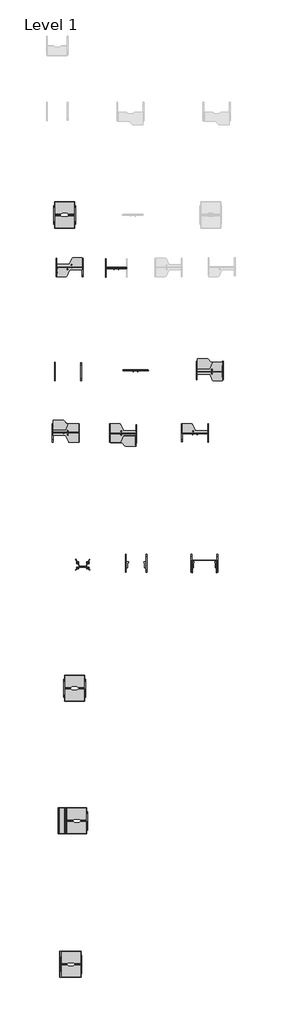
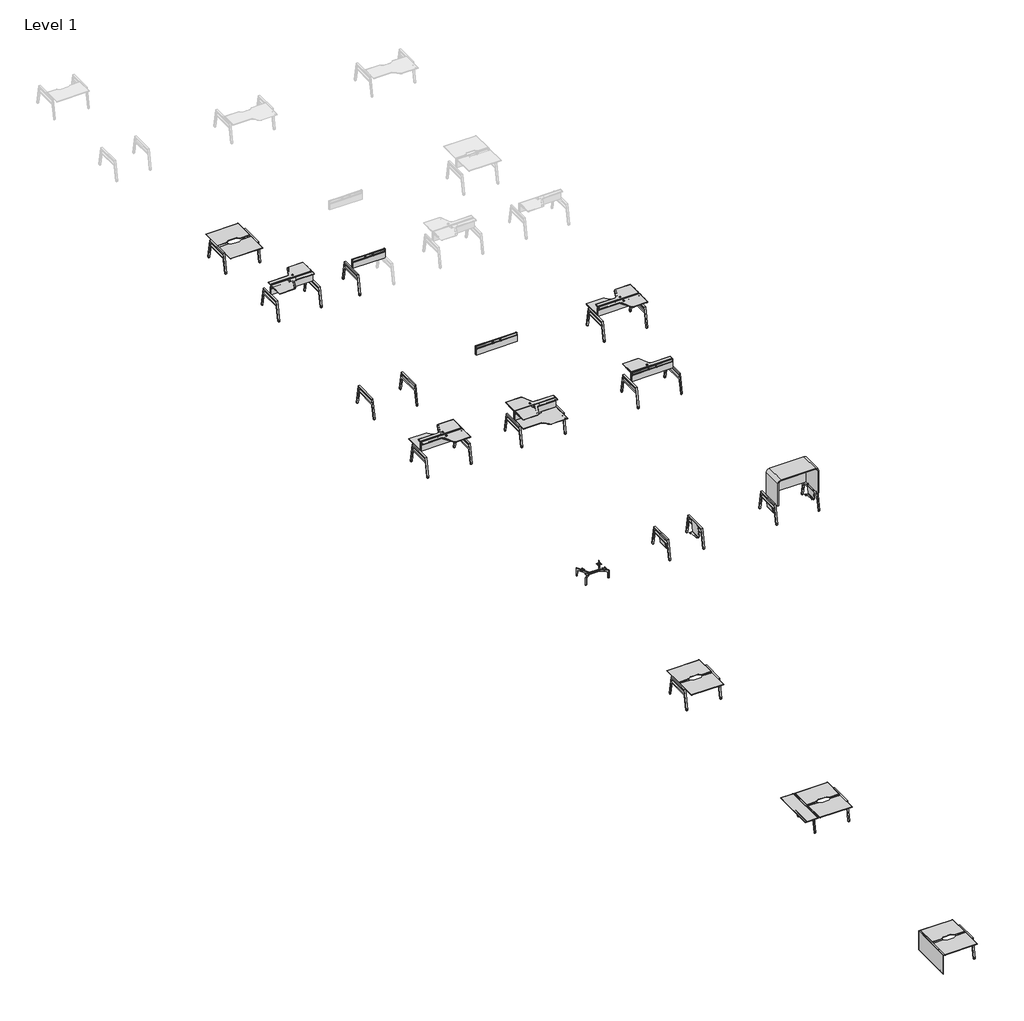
# One storey, part 1 of 6: 115 furniture elements.
"""IFC4 building model written with IfcOpenShell, lengths in millimetres."""

from ifc_helpers import new_model, si_unit, origin, place, context, project, spatial, transform, mapped, element, save
from components import furniture_6679164a, furniture_07929c5c, furniture_6d1c9745, furniture_5ffd5a01, furniture_36w_9987a5bf, furniture_48w_f59d3814, furniture_60w_907c8dee, furniture_60w_9ff7b1d1, furniture_60w_9ca0c22e, furniture_60w_left_193ce283, furniture_60w_right_423f7bdd, furniture_60w_right_6b6f8c7d, furniture_60w_right_09d68f9b, bracket_5da60547, bracket_8338e0bc, double_mini_hook_front_8bcf4326, full_half_8ba35e3a, full_half_125b1efd, seat_e1c811f7

model = new_model("IFC4")

# Units and contexts
model_context = context("Model", 3, world=origin())
ifc_project = project(units=[si_unit("LENGTHUNIT", "METRE", prefix="MILLI")], contexts=[model_context])

# Site, building, storey
site = spatial("IfcSite", under=ifc_project)
building = spatial("IfcBuilding", under=site)
storey = spatial("IfcBuildingStorey", under=building, Name="Level 1", Elevation=0.0)

# Furniture
placement = place(None, origin())
furniture_shape = furniture_6679164a(model_context)
element("IfcFurniture", 1, ObjectType="Steelcase Turnstone - Bivi - Table - Table Top : 30D x 48W", at=placement, inside=storey, context=model_context, shape_type="MappedRepresentation", body=[
    mapped(furniture_shape, transform((694235.6460271, -10095.5014465, 0.0), x_axis=(-1.0, 0.0, 0.0), y_axis=(0.0, -1.0, 0.0), z_axis=(0.0, 0.0, 1.0))),
])
element("IfcFurniture", 2, ObjectType="Steelcase Turnstone - Bivi - Table - Table Top : 30D x 48W", at=placement, inside=storey, context=model_context, shape_type="MappedRepresentation", body=[
    mapped(furniture_shape, transform((693349.3182823, -39227.9641494, 0.0), x_axis=(1.0, 0.0, 0.0), y_axis=(0.0, 1.0, 0.0), z_axis=(0.0, 0.0, 1.0))),
])
element("IfcFurniture", 3, ObjectType="Steelcase Turnstone - Bivi - Table - Table Top : 30D x 48W", at=placement, inside=storey, context=model_context, shape_type="MappedRepresentation", body=[
    mapped(furniture_shape, transform((693479.4932823, -46956.7885998, 0.0), x_axis=(1.0, 0.0, 0.0), y_axis=(0.0, 1.0, 0.0), z_axis=(0.0, 0.0, 1.0))),
])
element("IfcFurniture", 4, ObjectType="Steelcase Turnstone - Bivi - Table - Table Top : 30D x 48W", at=placement, inside=storey, context=model_context, shape_type="MappedRepresentation", body=[
    mapped(furniture_shape, transform((694951.0168823, -45433.2505093, 0.0), x_axis=(-1.0, 0.0, 0.0), y_axis=(0.0, -1.0, 0.0), z_axis=(0.0, 0.0, 1.0))),
])
element("IfcFurniture", 5, ObjectType="Steelcase Turnstone - Bivi - Table - Table Top : 30D x 48W", at=placement, inside=storey, context=model_context, shape_type="MappedRepresentation", body=[
    mapped(furniture_shape, transform((694607.8969681, -53803.6074746, 0.0), x_axis=(-1.0, 0.0, 0.0), y_axis=(0.0, -1.0, 0.0), z_axis=(0.0, 0.0, 1.0))),
])
furniture_2_shape = furniture_07929c5c(model_context)
element("IfcFurniture", 6, ObjectType="Steelcase Turnstone - Bivi - Table - Leg : 2D x 42 1/4W 28 1/2H", at=placement, inside=storey, context=model_context, shape_type="MappedRepresentation", body=[
    mapped(furniture_2_shape, transform((694132.3696271, -11401.7598524, 0.0), x_axis=(-1.0, 0.0, 0.0), y_axis=(0.0, -1.0, 0.0), z_axis=(0.0, 0.0, 1.0))),
])
element("IfcFurniture", 7, ObjectType="Steelcase Turnstone - Bivi - Table - Leg : 2D x 42 1/4W 28 1/2H", at=placement, inside=storey, context=model_context, shape_type="MappedRepresentation", body=[
    mapped(furniture_2_shape, transform((694489.8492271, -20549.8252631, 0.0), x_axis=(-1.0, 0.0, 0.0), y_axis=(0.0, -1.0, 0.0), z_axis=(0.0, 0.0, 1.0))),
])
element("IfcFurniture", 8, ObjectType="Steelcase Turnstone - Bivi - Table - Leg : 2D x 42 1/4W 28 1/2H", at=placement, inside=storey, context=model_context, shape_type="MappedRepresentation", body=[
    mapped(furniture_2_shape, transform((694364.1327901, -24122.7647155, 0.0), x_axis=(-1.0, 0.0, 0.0), y_axis=(0.0, -1.0, 0.0), z_axis=(0.0, 0.0, 1.0))),
])
element("IfcFurniture", 9, ObjectType="Steelcase Turnstone - Bivi - Table - Leg : 2D x 42 1/4W 28 1/2H", at=placement, inside=storey, context=model_context, shape_type="MappedRepresentation", body=[
    mapped(furniture_2_shape, transform((697716.9327901, -24167.1959645, 0.0), x_axis=(-1.0, 0.0, 0.0), y_axis=(0.0, -1.0, 0.0), z_axis=(0.0, 0.0, 1.0))),
])
element("IfcFurniture", 10, ObjectType="Steelcase Turnstone - Bivi - Table - Leg : 2D x 42 1/4W 28 1/2H", at=placement, inside=storey, context=model_context, shape_type="MappedRepresentation", body=[
    mapped(furniture_2_shape, transform((702775.3099474, -20466.9502315, 0.0), x_axis=(-1.0, 0.0, 0.0), y_axis=(0.0, -1.0, 0.0), z_axis=(0.0, 0.0, 1.0))),
])
element("IfcFurniture", 11, ObjectType="Steelcase Turnstone - Bivi - Table - Leg : 2D x 42 1/4W 28 1/2H", at=placement, inside=storey, context=model_context, shape_type="MappedRepresentation", body=[
    mapped(furniture_2_shape, transform((694572.2208352, -14467.3937544, 0.0), x_axis=(-1.0, 0.0, 0.0), y_axis=(0.0, -1.0, 0.0), z_axis=(0.0, 0.0, 1.0))),
])
element("IfcFurniture", 12, ObjectType="Steelcase Turnstone - Bivi - Table - Leg : 2D x 42 1/4W 28 1/2H", at=placement, inside=storey, context=model_context, shape_type="MappedRepresentation", body=[
    mapped(furniture_2_shape, transform((701909.2965662, -24109.0640818, 0.0), x_axis=(-1.0, 0.0, 0.0), y_axis=(0.0, -1.0, 0.0), z_axis=(0.0, 0.0, 1.0))),
])
element("IfcFurniture", 13, ObjectType="Steelcase Turnstone - Bivi - Table - Leg : 2D x 42 1/4W 28 1/2H", at=placement, inside=storey, context=model_context, shape_type="MappedRepresentation", body=[
    mapped(furniture_2_shape, transform((698314.2751728, -31711.4828317, 0.0), x_axis=(-1.0, 0.0, 0.0), y_axis=(0.0, -1.0, 0.0), z_axis=(0.0, 0.0, 1.0))),
])
element("IfcFurniture", 14, ObjectType="Steelcase Turnstone - Bivi - Table - Leg : 2D x 42 1/4W 28 1/2H", at=placement, inside=storey, context=model_context, shape_type="MappedRepresentation", body=[
    mapped(furniture_2_shape, transform((694720.7404823, -39002.8320536, 0.0), x_axis=(-1.0, 0.0, 0.0), y_axis=(0.0, -1.0, 0.0), z_axis=(0.0, 0.0, 1.0))),
])
element("IfcFurniture", 15, ObjectType="Steelcase Turnstone - Bivi - Table - Leg : 2D x 42 1/4W 28 1/2H", at=placement, inside=storey, context=model_context, shape_type="MappedRepresentation", body=[
    mapped(furniture_2_shape, transform((694847.7404823, -46731.656504, 0.0), x_axis=(-1.0, 0.0, 0.0), y_axis=(0.0, -1.0, 0.0), z_axis=(0.0, 0.0, 1.0))),
])
element("IfcFurniture", 16, ObjectType="Steelcase Turnstone - Bivi - Table - Leg : 2D x 42 1/4W 28 1/2H", at=placement, inside=storey, context=model_context, shape_type="MappedRepresentation", body=[
    mapped(furniture_2_shape, transform((694504.6205681, -55102.0134693, 0.0), x_axis=(-1.0, 0.0, 0.0), y_axis=(0.0, -1.0, 0.0), z_axis=(0.0, 0.0, 1.0))),
])
element("IfcFurniture", 17, ObjectType="Steelcase Turnstone - Bivi - Table - Leg : 2D x 42 1/4W 28 1/2H", at=placement, inside=storey, context=model_context, shape_type="MappedRepresentation", body=[
    mapped(furniture_2_shape, transform((702448.1251728, -31711.4828317, 0.0), x_axis=(-1.0, 0.0, 0.0), y_axis=(0.0, -1.0, 0.0), z_axis=(0.0, 0.0, 1.0))),
])
furniture_3_shape = furniture_6d1c9745(model_context)
element("IfcFurniture", 18, ObjectType="Steelcase Turnstone - Bivi - Table - Table Top : 30D x 48W", at=placement, inside=storey, context=model_context, shape_type="MappedRepresentation", body=[
    mapped(furniture_3_shape, transform((694235.6460271, -11634.7443593, 0.0), x_axis=(-1.0, 0.0, 0.0), y_axis=(0.0, -1.0, 0.0), z_axis=(0.0, 0.0, 1.0))),
])
element("IfcFurniture", 19, ObjectType="Steelcase Turnstone - Bivi - Table - Table Top : 30D x 48W", at=placement, inside=storey, context=model_context, shape_type="MappedRepresentation", body=[
    mapped(furniture_3_shape, transform((693349.3182823, -37704.426059, 0.0), x_axis=(1.0, 0.0, 0.0), y_axis=(0.0, 1.0, 0.0), z_axis=(0.0, 0.0, 1.0))),
])
element("IfcFurniture", 20, ObjectType="Steelcase Turnstone - Bivi - Table - Table Top : 30D x 48W", at=placement, inside=storey, context=model_context, shape_type="MappedRepresentation", body=[
    mapped(furniture_3_shape, transform((694607.8969681, -55327.1455651, 0.0), x_axis=(-1.0, 0.0, 0.0), y_axis=(0.0, -1.0, 0.0), z_axis=(0.0, 0.0, 1.0))),
])
furniture_4_shape = furniture_5ffd5a01(model_context)
element("IfcFurniture", 21, ObjectType="Steelcase Turnstone - Bivi - Table - Leg : 2D x 42 1/4W 28 1/2H", at=placement, inside=storey, context=model_context, shape_type="MappedRepresentation", body=[
    mapped(furniture_4_shape, transform((692865.7224271, -11401.7598524, 0.0), x_axis=(1.0, 0.0, 0.0), y_axis=(0.0, 1.0, 0.0), z_axis=(0.0, 0.0, 1.0))),
])
element("IfcFurniture", 22, ObjectType="Steelcase Turnstone - Bivi - Table - Leg : 2D x 42 1/4W 28 1/2H", at=placement, inside=storey, context=model_context, shape_type="MappedRepresentation", body=[
    mapped(furniture_4_shape, transform((692914.8460271, -20528.7477147, 0.0), x_axis=(1.0, 0.0, 0.0), y_axis=(0.0, 1.0, 0.0), z_axis=(0.0, 0.0, 1.0))),
])
element("IfcFurniture", 23, ObjectType="Steelcase Turnstone - Bivi - Table - Leg : 2D x 42 1/4W 28 1/2H", at=placement, inside=storey, context=model_context, shape_type="MappedRepresentation", body=[
    mapped(furniture_4_shape, transform((692777.2911447, -24106.9995272, 0.0), x_axis=(1.0, 0.0, 0.0), y_axis=(0.0, 1.0, 0.0), z_axis=(0.0, 0.0, 1.0))),
])
element("IfcFurniture", 24, ObjectType="Steelcase Turnstone - Bivi - Table - Leg : 2D x 42 1/4W 28 1/2H", at=placement, inside=storey, context=model_context, shape_type="MappedRepresentation", body=[
    mapped(furniture_4_shape, transform((696130.0911447, -24125.3026878, 0.0), x_axis=(1.0, 0.0, 0.0), y_axis=(0.0, 1.0, 0.0), z_axis=(0.0, 0.0, 1.0))),
])
element("IfcFurniture", 25, ObjectType="Steelcase Turnstone - Bivi - Table - Leg : 2D x 42 1/4W 28 1/2H", at=placement, inside=storey, context=model_context, shape_type="MappedRepresentation", body=[
    mapped(furniture_4_shape, transform((701194.3875247, -20466.9502315, 0.0), x_axis=(1.0, 0.0, 0.0), y_axis=(0.0, 1.0, 0.0), z_axis=(0.0, 0.0, 1.0))),
])
element("IfcFurniture", 26, ObjectType="Steelcase Turnstone - Bivi - Table - Leg : 2D x 42 1/4W 28 1/2H", at=placement, inside=storey, context=model_context, shape_type="MappedRepresentation", body=[
    mapped(furniture_4_shape, transform((693000.7736352, -14467.3937544, 0.0), x_axis=(1.0, 0.0, 0.0), y_axis=(0.0, 1.0, 0.0), z_axis=(0.0, 0.0, 1.0))),
])
element("IfcFurniture", 27, ObjectType="Steelcase Turnstone - Bivi - Table - Leg : 2D x 42 1/4W 28 1/2H", at=placement, inside=storey, context=model_context, shape_type="MappedRepresentation", body=[
    mapped(furniture_4_shape, transform((695887.658745, -14498.0445441, 0.0), x_axis=(1.0, 0.0, 0.0), y_axis=(0.0, 1.0, 0.0), z_axis=(0.0, 0.0, 1.0))),
])
element("IfcFurniture", 28, ObjectType="Steelcase Turnstone - Bivi - Table - Leg : 2D x 42 1/4W 28 1/2H", at=placement, inside=storey, context=model_context, shape_type="MappedRepresentation", body=[
    mapped(furniture_4_shape, transform((700321.0911447, -24103.5434885, 0.0), x_axis=(1.0, 0.0, 0.0), y_axis=(0.0, 1.0, 0.0), z_axis=(0.0, 0.0, 1.0))),
])
element("IfcFurniture", 29, ObjectType="Steelcase Turnstone - Bivi - Table - Leg : 2D x 42 1/4W 28 1/2H", at=placement, inside=storey, context=model_context, shape_type="MappedRepresentation", body=[
    mapped(furniture_4_shape, transform((697047.6279728, -31711.4828317, 0.0), x_axis=(1.0, 0.0, 0.0), y_axis=(0.0, 1.0, 0.0), z_axis=(0.0, 0.0, 1.0))),
])
element("IfcFurniture", 30, ObjectType="Steelcase Turnstone - Bivi - Table - Leg : 2D x 42 1/4W 28 1/2H", at=placement, inside=storey, context=model_context, shape_type="MappedRepresentation", body=[
    mapped(furniture_4_shape, transform((693452.5946823, -39002.8320536, 0.0), x_axis=(1.0, 0.0, 0.0), y_axis=(0.0, 1.0, 0.0), z_axis=(0.0, 0.0, 1.0))),
])
element("IfcFurniture", 31, ObjectType="Steelcase Turnstone - Bivi - Table - Leg : 2D x 42 1/4W 28 1/2H", at=placement, inside=storey, context=model_context, shape_type="MappedRepresentation", body=[
    mapped(furniture_4_shape, transform((693582.7696823, -46731.656504, 0.0), x_axis=(1.0, 0.0, 0.0), y_axis=(0.0, 1.0, 0.0), z_axis=(0.0, 0.0, 1.0))),
])
element("IfcFurniture", 32, ObjectType="Steelcase Turnstone - Bivi - Table - Leg : 2D x 42 1/4W 28 1/2H", at=placement, inside=storey, context=model_context, shape_type="MappedRepresentation", body=[
    mapped(furniture_4_shape, transform((693236.4747681, -55102.0134693, 0.0), x_axis=(1.0, 0.0, 0.0), y_axis=(0.0, 1.0, 0.0), z_axis=(0.0, 0.0, 1.0))),
])
element("IfcFurniture", 33, ObjectType="Steelcase Turnstone - Bivi - Table - Leg : 2D x 42 1/4W 28 1/2H", at=placement, inside=storey, context=model_context, shape_type="MappedRepresentation", body=[
    mapped(furniture_4_shape, transform((700879.8529728, -31711.4828317, 0.0), x_axis=(1.0, 0.0, 0.0), y_axis=(0.0, 1.0, 0.0), z_axis=(0.0, 0.0, 1.0))),
])
furniture_36w_shape = furniture_36w_9987a5bf(model_context)
element("IfcFurniture", 34, ObjectType="Steelcase Turnstone - Bivi - Seat - Rumble Seat - Freestanding Leg : 36W", at=placement, inside=storey, context=model_context, shape_type="MappedRepresentation", body=[
    mapped(furniture_36w_shape, transform((694456.1973545, -31382.3766145, 0.0), x_axis=(1.0, 0.0, 0.0), y_axis=(0.0, 1.0, 0.0), z_axis=(0.0, 0.0, 1.0))),
])
furniture_48w_shape = furniture_48w_f59d3814(model_context)
element("IfcFurniture", 35, ObjectType="Steelcase Turnstone - Bivi - Accessories - High Sit Bracket with Modesty Panel : 48W", at=placement, inside=storey, context=model_context, shape_type="MappedRepresentation", body=[
    mapped(furniture_48w_shape, transform((695782.604345, -13878.9247336, 0.0), x_axis=(1.0, 0.0, 0.0), y_axis=(0.0, 1.0, 0.0), z_axis=(0.0, 0.0, 1.0))),
])
furniture_60w_shape = furniture_60w_907c8dee(model_context)
element("IfcFurniture", 36, ObjectType="Steelcase Turnstone - Bivi - Accessories - End Panel : 60W", at=placement, inside=storey, context=model_context, shape_type="MappedRepresentation", body=[
    mapped(furniture_60w_shape, transform((693118.8981681, -54460.5277539, 0.0), x_axis=(1.0, 0.0, 0.0), y_axis=(0.0, 1.0, 0.0), z_axis=(0.0, 0.0, 1.0))),
])
furniture_60w_2_shape = furniture_60w_9ff7b1d1(model_context)
element("IfcFurniture", 37, ObjectType="Steelcase Turnstone - Bivi - Table - End Hanging Table Top : 60W", at=placement, inside=storey, context=model_context, shape_type="MappedRepresentation", body=[
    mapped(furniture_60w_2_shape, transform((693428.6932823, -46538.2788046, 0.0), x_axis=(1.0, 0.0, 0.0), y_axis=(0.0, 1.0, 0.0), z_axis=(0.0, 0.0, 1.0))),
])
furniture_60w_3_shape = furniture_60w_9ca0c22e(model_context)
element("IfcFurniture", 38, ObjectType="Steelcase Turnstone - Bivi - Accessories - High Sit Bracket with Modesty Panel : 60W", at=placement, inside=storey, context=model_context, shape_type="MappedRepresentation", body=[
    mapped(furniture_60w_3_shape, transform((696908.5652497, -19850.4400419, 0.0), x_axis=(1.0, 0.0, 0.0), y_axis=(0.0, 1.0, 0.0), z_axis=(0.0, 0.0, 1.0))),
])
element("IfcFurniture", 39, ObjectType="Steelcase Turnstone - Bivi - Accessories - High Sit Bracket with Modesty Panel : 60W", at=placement, inside=storey, context=model_context, shape_type="MappedRepresentation", body=[
    mapped(furniture_60w_3_shape, transform((692832.3339674, -23497.322131, 0.0), x_axis=(1.0, 0.0, 0.0), y_axis=(0.0, 1.0, 0.0), z_axis=(0.0, 0.0, 1.0))),
])
element("IfcFurniture", 40, ObjectType="Steelcase Turnstone - Bivi - Accessories - High Sit Bracket with Modesty Panel : 60W", at=placement, inside=storey, context=model_context, shape_type="MappedRepresentation", body=[
    mapped(furniture_60w_3_shape, transform((696185.1339674, -23504.5006044, 0.0), x_axis=(1.0, 0.0, 0.0), y_axis=(0.0, 1.0, 0.0), z_axis=(0.0, 0.0, 1.0))),
])
element("IfcFurniture", 41, ObjectType="Steelcase Turnstone - Bivi - Accessories - High Sit Bracket with Modesty Panel : 60W", at=placement, inside=storey, context=model_context, shape_type="MappedRepresentation", body=[
    mapped(furniture_60w_3_shape, transform((701249.4303474, -19924.4766921, 0.0), x_axis=(1.0, 0.0, 0.0), y_axis=(0.0, 1.0, 0.0), z_axis=(0.0, 0.0, 1.0))),
])
element("IfcFurniture", 42, ObjectType="Steelcase Turnstone - Bivi - Accessories - High Sit Bracket with Modesty Panel : 60W", at=placement, inside=storey, context=model_context, shape_type="MappedRepresentation", body=[
    mapped(furniture_60w_3_shape, transform((693048.1192352, -13841.0954705, 0.0), x_axis=(1.0, 0.0, 0.0), y_axis=(0.0, 1.0, 0.0), z_axis=(0.0, 0.0, 1.0))),
])
element("IfcFurniture", 43, ObjectType="Steelcase Turnstone - Bivi - Accessories - High Sit Bracket with Modesty Panel : 60W", at=placement, inside=storey, context=model_context, shape_type="MappedRepresentation", body=[
    mapped(furniture_60w_3_shape, transform((700376.1339674, -23504.5006044, 0.0), x_axis=(1.0, 0.0, 0.0), y_axis=(0.0, 1.0, 0.0), z_axis=(0.0, 0.0, 1.0))),
])
furniture_60w_left_shape = furniture_60w_left_193ce283(model_context)
element("IfcFurniture", 44, ObjectType="Steelcase Turnstone - Bivi - Table - Dual Top - Upper : 60W - Left", at=placement, inside=storey, context=model_context, shape_type="MappedRepresentation", body=[
    mapped(furniture_60w_left_shape, transform((694465.6151746, -22742.5023412, 0.0), x_axis=(-1.0000000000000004, 0.0, 0.0), y_axis=(0.0, -1.0000000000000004, 0.0), z_axis=(0.0, 0.0, 1.0))),
])
element("IfcFurniture", 45, ObjectType="Steelcase Turnstone - Bivi - Table - Dual Top - Upper : 60W - Left", at=placement, inside=storey, context=model_context, shape_type="MappedRepresentation", body=[
    mapped(furniture_60w_left_shape, transform((696038.0779815, -24416.6498616, 0.0), x_axis=(1.0, 0.0, 0.0), y_axis=(0.0, 1.0, 0.0), z_axis=(0.0, 0.0, 1.0))),
])
element("IfcFurniture", 46, ObjectType="Steelcase Turnstone - Bivi - Table - Dual Top - Upper : 60W - Left", at=placement, inside=storey, context=model_context, shape_type="MappedRepresentation", body=[
    mapped(furniture_60w_left_shape, transform((702882.7115545, -19169.6569023, 0.0), x_axis=(-1.0000000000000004, 0.0, 0.0), y_axis=(0.0, -1.0000000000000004, 0.0), z_axis=(0.0, 0.0, 1.0))),
])
element("IfcFurniture", 47, ObjectType="Steelcase Turnstone - Bivi - Table - Dual Top - Upper : 60W - Left", at=placement, inside=storey, context=model_context, shape_type="MappedRepresentation", body=[
    mapped(furniture_60w_left_shape, transform((692899.2912507, -14758.7409282, 12.6390766), x_axis=(1.0, 0.0, 0.0), y_axis=(0.0, 1.0, 0.0), z_axis=(0.0, 0.0, 1.0))),
])
furniture_60w_right_shape = furniture_60w_right_423f7bdd(model_context)
element("IfcFurniture", 48, ObjectType="Steelcase Turnstone - Bivi - Table - Dual Top - Lower : 60W - Right", at=placement, inside=storey, context=model_context, shape_type="MappedRepresentation", body=[
    mapped(furniture_60w_right_shape, transform((694458.5024304, -22750.0264851, 0.0), x_axis=(-1.0000000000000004, 0.0, 0.0), y_axis=(0.0, -1.0000000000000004, 0.0), z_axis=(0.0, 0.0, 1.0))),
])
element("IfcFurniture", 49, ObjectType="Steelcase Turnstone - Bivi - Table - Dual Top - Lower : 60W - Right", at=placement, inside=storey, context=model_context, shape_type="MappedRepresentation", body=[
    mapped(furniture_60w_right_shape, transform((696038.8407257, -24445.7811889, 0.0), x_axis=(1.0, 0.0, 0.0), y_axis=(0.0, 1.0, 0.0), z_axis=(0.0, 0.0, 1.0))),
])
element("IfcFurniture", 50, ObjectType="Steelcase Turnstone - Bivi - Table - Dual Top - Lower : 60W - Right", at=placement, inside=storey, context=model_context, shape_type="MappedRepresentation", body=[
    mapped(furniture_60w_right_shape, transform((702875.5988104, -19177.1810462, 0.0), x_axis=(-1.0000000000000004, 0.0, 0.0), y_axis=(0.0, -1.0000000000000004, 0.0), z_axis=(0.0, 0.0, 1.0))),
])
furniture_60w_right_2_shape = furniture_60w_right_6b6f8c7d(model_context)
element("IfcFurniture", 51, ObjectType="Steelcase Turnstone - Bivi - Table - Dual Top - Upper : 60W - Right", at=placement, inside=storey, context=model_context, shape_type="MappedRepresentation", body=[
    mapped(furniture_60w_right_2_shape, transform((692688.5087602, -24414.1118893, 0.0), x_axis=(1.0, 0.0, 0.0), y_axis=(0.0, 1.0, 0.0), z_axis=(0.0, 0.0, 1.0))),
])
element("IfcFurniture", 52, ObjectType="Steelcase Turnstone - Bivi - Table - Dual Top - Upper : 60W - Right", at=placement, inside=storey, context=model_context, shape_type="MappedRepresentation", body=[
    mapped(furniture_60w_right_2_shape, transform((697812.4959519, -22757.2049585, 0.0), x_axis=(-1.0000000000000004, 0.0, 0.0), y_axis=(0.0, -1.0000000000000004, 0.0), z_axis=(0.0, 0.0, 1.0))),
])
element("IfcFurniture", 53, ObjectType="Steelcase Turnstone - Bivi - Table - Dual Top - Upper : 60W - Right", at=placement, inside=storey, context=model_context, shape_type="MappedRepresentation", body=[
    mapped(furniture_60w_right_2_shape, transform((701105.6051402, -20841.2664504, 0.0), x_axis=(1.0, 0.0, 0.0), y_axis=(0.0, 1.0, 0.0), z_axis=(0.0, 0.0, 1.0))),
])
element("IfcFurniture", 54, ObjectType="Steelcase Turnstone - Bivi - Table - Dual Top - Upper : 60W - Right", at=placement, inside=storey, context=model_context, shape_type="MappedRepresentation", body=[
    mapped(furniture_60w_right_2_shape, transform((702003.4959519, -22757.2049585, 0.0), x_axis=(-1.0000000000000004, 0.0, 0.0), y_axis=(0.0, -1.0000000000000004, 0.0), z_axis=(0.0, 0.0, 1.0))),
])
furniture_60w_right_3_shape = furniture_60w_right_09d68f9b(model_context)
element("IfcFurniture", 55, ObjectType="Steelcase Turnstone - Bivi - Table - Dual Top - Upper : 60W - Right", at=placement, inside=storey, context=model_context, shape_type="MappedRepresentation", body=[
    mapped(furniture_60w_right_3_shape, transform((692899.2912507, -13064.8097073, 12.6390766), x_axis=(1.0, 0.0, 0.0), y_axis=(0.0, 1.0, 0.0), z_axis=(0.0, 0.0, 1.0))),
])
bracket_shape = bracket_5da60547(model_context)
element("IfcFurniture", 56, ObjectType="Steelcase Turnstone - Bivi - Seat - Rumble Seat - Table Frame Attachment Bracket : Bracket", at=placement, inside=storey, context=model_context, shape_type="MappedRepresentation", body=[
    mapped(bracket_shape, transform((700821.5982601, -31240.9415213, 0.2767651), x_axis=(1.0, 0.0, 0.0), y_axis=(0.0, 1.0, 0.0), z_axis=(0.0, 0.0, 1.0))),
])
bracket_2_shape = bracket_8338e0bc(model_context)
element("IfcFurniture", 57, ObjectType="Steelcase Turnstone - Bivi - Seat - Rumble Seat - Table Frame Attachment Bracket : Bracket", at=placement, inside=storey, context=model_context, shape_type="MappedRepresentation", body=[
    mapped(bracket_2_shape, transform((696986.1982601, -31240.9415213, 0.2767651), x_axis=(1.0, 0.0, 0.0), y_axis=(0.0, 1.0, 0.0), z_axis=(0.0, 0.0, 1.0))),
])
double_mini_hook_front_shape = double_mini_hook_front_8bcf4326(model_context)
element("IfcFurniture", 58, ObjectType="Steelcase Turnstone - Bivi - Accessories - Mini Hook : Double Mini Hook - Front", at=placement, inside=storey, context=model_context, shape_type="MappedRepresentation", body=[
    mapped(double_mini_hook_front_shape, transform((696908.5652497, -19850.4400419, 0.0), x_axis=(1.0, 0.0, 0.0), y_axis=(0.0, 1.0, 0.0), z_axis=(0.0, 0.0, 1.0))),
])
element("IfcFurniture", 59, ObjectType="Steelcase Turnstone - Bivi - Accessories - Mini Hook : Double Mini Hook - Front", at=placement, inside=storey, context=model_context, shape_type="MappedRepresentation", body=[
    mapped(double_mini_hook_front_shape, transform((692832.3339674, -23497.322131, 0.0), x_axis=(1.0, 0.0, 0.0), y_axis=(0.0, 1.0, 0.0), z_axis=(0.0, 0.0, 1.0))),
])
element("IfcFurniture", 60, ObjectType="Steelcase Turnstone - Bivi - Accessories - Mini Hook : Double Mini Hook - Front", at=placement, inside=storey, context=model_context, shape_type="MappedRepresentation", body=[
    mapped(double_mini_hook_front_shape, transform((696185.1339674, -23504.5006044, 0.0), x_axis=(1.0, 0.0, 0.0), y_axis=(0.0, 1.0, 0.0), z_axis=(0.0, 0.0, 1.0))),
])
element("IfcFurniture", 61, ObjectType="Steelcase Turnstone - Bivi - Accessories - Mini Hook : Double Mini Hook - Front", at=placement, inside=storey, context=model_context, shape_type="MappedRepresentation", body=[
    mapped(double_mini_hook_front_shape, transform((701249.4303474, -19924.4766921, 0.0), x_axis=(1.0, 0.0, 0.0), y_axis=(0.0, 1.0, 0.0), z_axis=(0.0, 0.0, 1.0))),
])
element("IfcFurniture", 62, ObjectType="Steelcase Turnstone - Bivi - Accessories - Mini Hook : Double Mini Hook - Front", at=placement, inside=storey, context=model_context, shape_type="MappedRepresentation", body=[
    mapped(double_mini_hook_front_shape, transform((693048.1192352, -13841.0954705, 0.0), x_axis=(1.0, 0.0, 0.0), y_axis=(0.0, 1.0, 0.0), z_axis=(0.0, 0.0, 1.0))),
])
element("IfcFurniture", 63, ObjectType="Steelcase Turnstone - Bivi - Accessories - Mini Hook : Double Mini Hook - Front", at=placement, inside=storey, context=model_context, shape_type="MappedRepresentation", body=[
    mapped(double_mini_hook_front_shape, transform((695782.604345, -13878.9247336, 0.0), x_axis=(1.0, 0.0, 0.0), y_axis=(0.0, 1.0, 0.0), z_axis=(0.0, 0.0, 1.0))),
])
element("IfcFurniture", 64, ObjectType="Steelcase Turnstone - Bivi - Accessories - Mini Hook : Double Mini Hook - Front", at=placement, inside=storey, context=model_context, shape_type="MappedRepresentation", body=[
    mapped(double_mini_hook_front_shape, transform((700376.1339674, -23504.5006044, 0.0), x_axis=(1.0, 0.0, 0.0), y_axis=(0.0, 1.0, 0.0), z_axis=(0.0, 0.0, 1.0))),
])
full_half_shape = full_half_8ba35e3a(model_context)
element("IfcFurniture", 65, ObjectType="Steelcase Turnstone - Bivi - Table - Leg Cover : Full/Half", at=placement, inside=storey, context=model_context, shape_type="MappedRepresentation", body=[
    mapped(full_half_shape, transform((692865.7224271, -11401.7598524, 0.0), x_axis=(1.0, 0.0, 0.0), y_axis=(0.0, 1.0, 0.0), z_axis=(0.0, 0.0, 1.0))),
])
element("IfcFurniture", 66, ObjectType="Steelcase Turnstone - Bivi - Table - Leg Cover : Full/Half", at=placement, inside=storey, context=model_context, shape_type="MappedRepresentation", body=[
    mapped(full_half_shape, transform((694132.3696271, -10328.4859535, 0.0), x_axis=(-1.0, 0.0, 0.0), y_axis=(0.0, -1.0, 0.0), z_axis=(0.0, 0.0, 1.0))),
])
element("IfcFurniture", 67, ObjectType="Steelcase Turnstone - Bivi - Table - Leg Cover : Full/Half", at=placement, inside=storey, context=model_context, shape_type="MappedRepresentation", body=[
    mapped(full_half_shape, transform((692914.8460271, -20528.7477147, 0.0), x_axis=(1.0, 0.0, 0.0), y_axis=(0.0, 1.0, 0.0), z_axis=(0.0, 0.0, 1.0))),
])
element("IfcFurniture", 68, ObjectType="Steelcase Turnstone - Bivi - Table - Leg Cover : Full/Half", at=placement, inside=storey, context=model_context, shape_type="MappedRepresentation", body=[
    mapped(full_half_shape, transform((694489.8492271, -19476.5513642, 0.0), x_axis=(-1.0, 0.0, 0.0), y_axis=(0.0, -1.0, 0.0), z_axis=(0.0, 0.0, 1.0))),
])
element("IfcFurniture", 69, ObjectType="Steelcase Turnstone - Bivi - Table - Leg Cover : Full/Half", at=placement, inside=storey, context=model_context, shape_type="MappedRepresentation", body=[
    mapped(full_half_shape, transform((692777.2911447, -24106.9995272, 0.0), x_axis=(1.0, 0.0, 0.0), y_axis=(0.0, 1.0, 0.0), z_axis=(0.0, 0.0, 1.0))),
])
element("IfcFurniture", 70, ObjectType="Steelcase Turnstone - Bivi - Table - Leg Cover : Full/Half", at=placement, inside=storey, context=model_context, shape_type="MappedRepresentation", body=[
    mapped(full_half_shape, transform((694364.1327901, -23049.4908166, 0.0), x_axis=(-1.0, 0.0, 0.0), y_axis=(0.0, -1.0, 0.0), z_axis=(0.0, 0.0, 1.0))),
])
element("IfcFurniture", 71, ObjectType="Steelcase Turnstone - Bivi - Table - Leg Cover : Full/Half", at=placement, inside=storey, context=model_context, shape_type="MappedRepresentation", body=[
    mapped(full_half_shape, transform((696130.0911447, -24125.3026878, 0.0), x_axis=(1.0, 0.0, 0.0), y_axis=(0.0, 1.0, 0.0), z_axis=(0.0, 0.0, 1.0))),
])
element("IfcFurniture", 72, ObjectType="Steelcase Turnstone - Bivi - Table - Leg Cover : Full/Half", at=placement, inside=storey, context=model_context, shape_type="MappedRepresentation", body=[
    mapped(full_half_shape, transform((697716.9327901, -23093.9220656, 0.0), x_axis=(-1.0, 0.0, 0.0), y_axis=(0.0, -1.0, 0.0), z_axis=(0.0, 0.0, 1.0))),
])
element("IfcFurniture", 73, ObjectType="Steelcase Turnstone - Bivi - Table - Leg Cover : Full/Half", at=placement, inside=storey, context=model_context, shape_type="MappedRepresentation", body=[
    mapped(full_half_shape, transform((701194.3875247, -20466.9502315, 0.0), x_axis=(1.0, 0.0, 0.0), y_axis=(0.0, 1.0, 0.0), z_axis=(0.0, 0.0, 1.0))),
])
element("IfcFurniture", 74, ObjectType="Steelcase Turnstone - Bivi - Table - Leg Cover : Full/Half", at=placement, inside=storey, context=model_context, shape_type="MappedRepresentation", body=[
    mapped(full_half_shape, transform((702775.3099474, -19393.6763326, 0.0), x_axis=(-1.0, 0.0, 0.0), y_axis=(0.0, -1.0, 0.0), z_axis=(0.0, 0.0, 1.0))),
])
element("IfcFurniture", 75, ObjectType="Steelcase Turnstone - Bivi - Table - Leg Cover : Full/Half", at=placement, inside=storey, context=model_context, shape_type="MappedRepresentation", body=[
    mapped(full_half_shape, transform((693000.7736352, -14467.3937544, 0.0), x_axis=(1.0, 0.0, 0.0), y_axis=(0.0, 1.0, 0.0), z_axis=(0.0, 0.0, 1.0))),
])
element("IfcFurniture", 76, ObjectType="Steelcase Turnstone - Bivi - Table - Leg Cover : Full/Half", at=placement, inside=storey, context=model_context, shape_type="MappedRepresentation", body=[
    mapped(full_half_shape, transform((694572.2208352, -13394.1198555, 0.0), x_axis=(-1.0, 0.0, 0.0), y_axis=(0.0, -1.0, 0.0), z_axis=(0.0, 0.0, 1.0))),
])
element("IfcFurniture", 77, ObjectType="Steelcase Turnstone - Bivi - Table - Leg Cover : Full/Half", at=placement, inside=storey, context=model_context, shape_type="MappedRepresentation", body=[
    mapped(full_half_shape, transform((695887.658745, -14498.0445441, 0.0), x_axis=(1.0, 0.0, 0.0), y_axis=(0.0, 1.0, 0.0), z_axis=(0.0, 0.0, 1.0))),
])
element("IfcFurniture", 78, ObjectType="Steelcase Turnstone - Bivi - Table - Leg Cover : Full/Half", at=placement, inside=storey, context=model_context, shape_type="MappedRepresentation", body=[
    mapped(full_half_shape, transform((700321.0911447, -24103.5434885, 0.0), x_axis=(1.0, 0.0, 0.0), y_axis=(0.0, 1.0, 0.0), z_axis=(0.0, 0.0, 1.0))),
])
element("IfcFurniture", 79, ObjectType="Steelcase Turnstone - Bivi - Table - Leg Cover : Full/Half", at=placement, inside=storey, context=model_context, shape_type="MappedRepresentation", body=[
    mapped(full_half_shape, transform((701909.2965662, -23035.7901829, 0.0), x_axis=(-1.0, 0.0, 0.0), y_axis=(0.0, -1.0, 0.0), z_axis=(0.0, 0.0, 1.0))),
])
element("IfcFurniture", 80, ObjectType="Steelcase Turnstone - Bivi - Table - Leg Cover : Full/Half", at=placement, inside=storey, context=model_context, shape_type="MappedRepresentation", body=[
    mapped(full_half_shape, transform((697047.6279728, -31711.4828317, 0.0), x_axis=(1.0, 0.0, 0.0), y_axis=(0.0, 1.0, 0.0), z_axis=(0.0, 0.0, 1.0))),
])
element("IfcFurniture", 81, ObjectType="Steelcase Turnstone - Bivi - Table - Leg Cover : Full/Half", at=placement, inside=storey, context=model_context, shape_type="MappedRepresentation", body=[
    mapped(full_half_shape, transform((698314.2751728, -30638.2089328, 0.0), x_axis=(-1.0, 0.0, 0.0), y_axis=(0.0, -1.0, 0.0), z_axis=(0.0, 0.0, 1.0))),
])
element("IfcFurniture", 82, ObjectType="Steelcase Turnstone - Bivi - Table - Leg Cover : Full/Half", at=placement, inside=storey, context=model_context, shape_type="MappedRepresentation", body=[
    mapped(full_half_shape, transform((693452.5946823, -39002.8320536, 0.0), x_axis=(1.0, 0.0, 0.0), y_axis=(0.0, 1.0, 0.0), z_axis=(0.0, 0.0, 1.0))),
])
element("IfcFurniture", 83, ObjectType="Steelcase Turnstone - Bivi - Table - Leg Cover : Full/Half", at=placement, inside=storey, context=model_context, shape_type="MappedRepresentation", body=[
    mapped(full_half_shape, transform((694720.7404823, -37929.5581547, 0.0), x_axis=(-1.0, 0.0, 0.0), y_axis=(0.0, -1.0, 0.0), z_axis=(0.0, 0.0, 1.0))),
])
element("IfcFurniture", 84, ObjectType="Steelcase Turnstone - Bivi - Table - Leg Cover : Full/Half", at=placement, inside=storey, context=model_context, shape_type="MappedRepresentation", body=[
    mapped(full_half_shape, transform((693582.7696823, -46731.656504, 0.0), x_axis=(1.0, 0.0, 0.0), y_axis=(0.0, 1.0, 0.0), z_axis=(0.0, 0.0, 1.0))),
])
element("IfcFurniture", 85, ObjectType="Steelcase Turnstone - Bivi - Table - Leg Cover : Full/Half", at=placement, inside=storey, context=model_context, shape_type="MappedRepresentation", body=[
    mapped(full_half_shape, transform((694847.7404823, -45658.3826051, 0.0), x_axis=(-1.0, 0.0, 0.0), y_axis=(0.0, -1.0, 0.0), z_axis=(0.0, 0.0, 1.0))),
])
element("IfcFurniture", 86, ObjectType="Steelcase Turnstone - Bivi - Table - Leg Cover : Full/Half", at=placement, inside=storey, context=model_context, shape_type="MappedRepresentation", body=[
    mapped(full_half_shape, transform((693236.4747681, -55102.0134693, 0.0), x_axis=(1.0, 0.0, 0.0), y_axis=(0.0, 1.0, 0.0), z_axis=(0.0, 0.0, 1.0))),
])
element("IfcFurniture", 87, ObjectType="Steelcase Turnstone - Bivi - Table - Leg Cover : Full/Half", at=placement, inside=storey, context=model_context, shape_type="MappedRepresentation", body=[
    mapped(full_half_shape, transform((694504.6205681, -54028.7395704, 0.0), x_axis=(-1.0, 0.0, 0.0), y_axis=(0.0, -1.0, 0.0), z_axis=(0.0, 0.0, 1.0))),
])
element("IfcFurniture", 88, ObjectType="Steelcase Turnstone - Bivi - Table - Leg Cover : Full/Half", at=placement, inside=storey, context=model_context, shape_type="MappedRepresentation", body=[
    mapped(full_half_shape, transform((700879.8529728, -31711.4828317, 0.0), x_axis=(1.0, 0.0, 0.0), y_axis=(0.0, 1.0, 0.0), z_axis=(0.0, 0.0, 1.0))),
])
element("IfcFurniture", 89, ObjectType="Steelcase Turnstone - Bivi - Table - Leg Cover : Full/Half", at=placement, inside=storey, context=model_context, shape_type="MappedRepresentation", body=[
    mapped(full_half_shape, transform((702448.1251728, -30638.2089328, 0.0), x_axis=(-1.0, 0.0, 0.0), y_axis=(0.0, -1.0, 0.0), z_axis=(0.0, 0.0, 1.0))),
])
full_half_2_shape = full_half_125b1efd(model_context)
element("IfcFurniture", 90, ObjectType="Steelcase Turnstone - Bivi - Table - Leg Cover : Full/Half", at=placement, inside=storey, context=model_context, shape_type="MappedRepresentation", body=[
    mapped(full_half_2_shape, transform((692865.7224271, -10328.4859535, 0.0), x_axis=(1.0, 0.0, 0.0), y_axis=(0.0, 1.0, 0.0), z_axis=(0.0, 0.0, 1.0))),
])
element("IfcFurniture", 91, ObjectType="Steelcase Turnstone - Bivi - Table - Leg Cover : Full/Half", at=placement, inside=storey, context=model_context, shape_type="MappedRepresentation", body=[
    mapped(full_half_2_shape, transform((694132.3696271, -11401.7598524, 0.0), x_axis=(-1.0, 0.0, 0.0), y_axis=(0.0, -1.0, 0.0), z_axis=(0.0, 0.0, 1.0))),
])
element("IfcFurniture", 92, ObjectType="Steelcase Turnstone - Bivi - Table - Leg Cover : Full/Half", at=placement, inside=storey, context=model_context, shape_type="MappedRepresentation", body=[
    mapped(full_half_2_shape, transform((692914.8460271, -19455.4738158, 0.0), x_axis=(1.0, 0.0, 0.0), y_axis=(0.0, 1.0, 0.0), z_axis=(0.0, 0.0, 1.0))),
])
element("IfcFurniture", 93, ObjectType="Steelcase Turnstone - Bivi - Table - Leg Cover : Full/Half", at=placement, inside=storey, context=model_context, shape_type="MappedRepresentation", body=[
    mapped(full_half_2_shape, transform((694489.8492271, -20549.8252631, 0.0), x_axis=(-1.0, 0.0, 0.0), y_axis=(0.0, -1.0, 0.0), z_axis=(0.0, 0.0, 1.0))),
])
element("IfcFurniture", 94, ObjectType="Steelcase Turnstone - Bivi - Table - Leg Cover : Full/Half", at=placement, inside=storey, context=model_context, shape_type="MappedRepresentation", body=[
    mapped(full_half_2_shape, transform((692777.2911447, -23033.7256283, 0.0), x_axis=(1.0, 0.0, 0.0), y_axis=(0.0, 1.0, 0.0), z_axis=(0.0, 0.0, 1.0))),
])
element("IfcFurniture", 95, ObjectType="Steelcase Turnstone - Bivi - Table - Leg Cover : Full/Half", at=placement, inside=storey, context=model_context, shape_type="MappedRepresentation", body=[
    mapped(full_half_2_shape, transform((694364.1327901, -24122.7647155, 0.0), x_axis=(-1.0, 0.0, 0.0), y_axis=(0.0, -1.0, 0.0), z_axis=(0.0, 0.0, 1.0))),
])
element("IfcFurniture", 96, ObjectType="Steelcase Turnstone - Bivi - Table - Leg Cover : Full/Half", at=placement, inside=storey, context=model_context, shape_type="MappedRepresentation", body=[
    mapped(full_half_2_shape, transform((696130.0911447, -23052.0287889, 0.0), x_axis=(1.0, 0.0, 0.0), y_axis=(0.0, 1.0, 0.0), z_axis=(0.0, 0.0, 1.0))),
])
element("IfcFurniture", 97, ObjectType="Steelcase Turnstone - Bivi - Table - Leg Cover : Full/Half", at=placement, inside=storey, context=model_context, shape_type="MappedRepresentation", body=[
    mapped(full_half_2_shape, transform((697716.9327901, -24167.1959645, 0.0), x_axis=(-1.0, 0.0, 0.0), y_axis=(0.0, -1.0, 0.0), z_axis=(0.0, 0.0, 1.0))),
])
element("IfcFurniture", 98, ObjectType="Steelcase Turnstone - Bivi - Table - Leg Cover : Full/Half", at=placement, inside=storey, context=model_context, shape_type="MappedRepresentation", body=[
    mapped(full_half_2_shape, transform((701194.3875247, -19393.6763326, 0.0), x_axis=(1.0, 0.0, 0.0), y_axis=(0.0, 1.0, 0.0), z_axis=(0.0, 0.0, 1.0))),
])
element("IfcFurniture", 99, ObjectType="Steelcase Turnstone - Bivi - Table - Leg Cover : Full/Half", at=placement, inside=storey, context=model_context, shape_type="MappedRepresentation", body=[
    mapped(full_half_2_shape, transform((702775.3099474, -20466.9502315, 0.0), x_axis=(-1.0, 0.0, 0.0), y_axis=(0.0, -1.0, 0.0), z_axis=(0.0, 0.0, 1.0))),
])
element("IfcFurniture", 100, ObjectType="Steelcase Turnstone - Bivi - Table - Leg Cover : Full/Half", at=placement, inside=storey, context=model_context, shape_type="MappedRepresentation", body=[
    mapped(full_half_2_shape, transform((693000.7736352, -13394.1198555, 0.0), x_axis=(1.0, 0.0, 0.0), y_axis=(0.0, 1.0, 0.0), z_axis=(0.0, 0.0, 1.0))),
])
element("IfcFurniture", 101, ObjectType="Steelcase Turnstone - Bivi - Table - Leg Cover : Full/Half", at=placement, inside=storey, context=model_context, shape_type="MappedRepresentation", body=[
    mapped(full_half_2_shape, transform((694572.2208352, -14467.3937544, 0.0), x_axis=(-1.0, 0.0, 0.0), y_axis=(0.0, -1.0, 0.0), z_axis=(0.0, 0.0, 1.0))),
])
element("IfcFurniture", 102, ObjectType="Steelcase Turnstone - Bivi - Table - Leg Cover : Full/Half", at=placement, inside=storey, context=model_context, shape_type="MappedRepresentation", body=[
    mapped(full_half_2_shape, transform((695887.658745, -13424.7706452, 0.0), x_axis=(1.0, 0.0, 0.0), y_axis=(0.0, 1.0, 0.0), z_axis=(0.0, 0.0, 1.0))),
])
element("IfcFurniture", 103, ObjectType="Steelcase Turnstone - Bivi - Table - Leg Cover : Full/Half", at=placement, inside=storey, context=model_context, shape_type="MappedRepresentation", body=[
    mapped(full_half_2_shape, transform((700321.0911447, -23030.2695896, 0.0), x_axis=(1.0, 0.0, 0.0), y_axis=(0.0, 1.0, 0.0), z_axis=(0.0, 0.0, 1.0))),
])
element("IfcFurniture", 104, ObjectType="Steelcase Turnstone - Bivi - Table - Leg Cover : Full/Half", at=placement, inside=storey, context=model_context, shape_type="MappedRepresentation", body=[
    mapped(full_half_2_shape, transform((701909.2965662, -24109.0640818, 0.0), x_axis=(-1.0, 0.0, 0.0), y_axis=(0.0, -1.0, 0.0), z_axis=(0.0, 0.0, 1.0))),
])
element("IfcFurniture", 105, ObjectType="Steelcase Turnstone - Bivi - Table - Leg Cover : Full/Half", at=placement, inside=storey, context=model_context, shape_type="MappedRepresentation", body=[
    mapped(full_half_2_shape, transform((697047.6279728, -30638.2089328, 0.0), x_axis=(1.0, 0.0, 0.0), y_axis=(0.0, 1.0, 0.0), z_axis=(0.0, 0.0, 1.0))),
])
element("IfcFurniture", 106, ObjectType="Steelcase Turnstone - Bivi - Table - Leg Cover : Full/Half", at=placement, inside=storey, context=model_context, shape_type="MappedRepresentation", body=[
    mapped(full_half_2_shape, transform((698314.2751728, -31711.4828317, 0.0), x_axis=(-1.0, 0.0, 0.0), y_axis=(0.0, -1.0, 0.0), z_axis=(0.0, 0.0, 1.0))),
])
element("IfcFurniture", 107, ObjectType="Steelcase Turnstone - Bivi - Table - Leg Cover : Full/Half", at=placement, inside=storey, context=model_context, shape_type="MappedRepresentation", body=[
    mapped(full_half_2_shape, transform((693452.5946823, -37929.5581547, 0.0), x_axis=(1.0, 0.0, 0.0), y_axis=(0.0, 1.0, 0.0), z_axis=(0.0, 0.0, 1.0))),
])
element("IfcFurniture", 108, ObjectType="Steelcase Turnstone - Bivi - Table - Leg Cover : Full/Half", at=placement, inside=storey, context=model_context, shape_type="MappedRepresentation", body=[
    mapped(full_half_2_shape, transform((694720.7404823, -39002.8320536, 0.0), x_axis=(-1.0, 0.0, 0.0), y_axis=(0.0, -1.0, 0.0), z_axis=(0.0, 0.0, 1.0))),
])
element("IfcFurniture", 109, ObjectType="Steelcase Turnstone - Bivi - Table - Leg Cover : Full/Half", at=placement, inside=storey, context=model_context, shape_type="MappedRepresentation", body=[
    mapped(full_half_2_shape, transform((693582.7696823, -45658.3826051, 0.0), x_axis=(1.0, 0.0, 0.0), y_axis=(0.0, 1.0, 0.0), z_axis=(0.0, 0.0, 1.0))),
])
element("IfcFurniture", 110, ObjectType="Steelcase Turnstone - Bivi - Table - Leg Cover : Full/Half", at=placement, inside=storey, context=model_context, shape_type="MappedRepresentation", body=[
    mapped(full_half_2_shape, transform((694847.7404823, -46731.656504, 0.0), x_axis=(-1.0, 0.0, 0.0), y_axis=(0.0, -1.0, 0.0), z_axis=(0.0, 0.0, 1.0))),
])
element("IfcFurniture", 111, ObjectType="Steelcase Turnstone - Bivi - Table - Leg Cover : Full/Half", at=placement, inside=storey, context=model_context, shape_type="MappedRepresentation", body=[
    mapped(full_half_2_shape, transform((693236.4747681, -54028.7395704, 0.0), x_axis=(1.0, 0.0, 0.0), y_axis=(0.0, 1.0, 0.0), z_axis=(0.0, 0.0, 1.0))),
])
element("IfcFurniture", 112, ObjectType="Steelcase Turnstone - Bivi - Table - Leg Cover : Full/Half", at=placement, inside=storey, context=model_context, shape_type="MappedRepresentation", body=[
    mapped(full_half_2_shape, transform((694504.6205681, -55102.0134693, 0.0), x_axis=(-1.0, 0.0, 0.0), y_axis=(0.0, -1.0, 0.0), z_axis=(0.0, 0.0, 1.0))),
])
element("IfcFurniture", 113, ObjectType="Steelcase Turnstone - Bivi - Table - Leg Cover : Full/Half", at=placement, inside=storey, context=model_context, shape_type="MappedRepresentation", body=[
    mapped(full_half_2_shape, transform((700879.8529728, -30638.2089328, 0.0), x_axis=(1.0, 0.0, 0.0), y_axis=(0.0, 1.0, 0.0), z_axis=(0.0, 0.0, 1.0))),
])
element("IfcFurniture", 114, ObjectType="Steelcase Turnstone - Bivi - Table - Leg Cover : Full/Half", at=placement, inside=storey, context=model_context, shape_type="MappedRepresentation", body=[
    mapped(full_half_2_shape, transform((702448.1251728, -31711.4828317, 0.0), x_axis=(-1.0, 0.0, 0.0), y_axis=(0.0, -1.0, 0.0), z_axis=(0.0, 0.0, 1.0))),
])
seat_shape = seat_e1c811f7(model_context)
element("IfcFurniture", 115, ObjectType="Steelcase Turnstone - Bivi - Seat - Hoodie : Seat", at=placement, inside=storey, context=model_context, shape_type="MappedRepresentation", body=[
    mapped(seat_shape, transform((698630.5899638, -31192.9200788, 0.0), x_axis=(1.0, 0.0, 0.0), y_axis=(0.0, 1.0, 0.0), z_axis=(0.0, 0.0, 1.0))),
])

save(model, "model.ifc")
